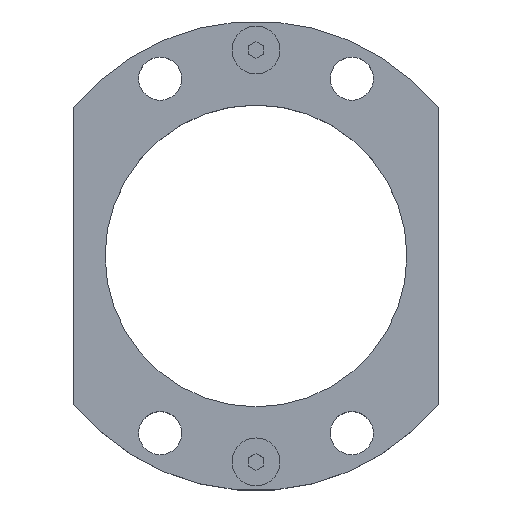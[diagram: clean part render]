
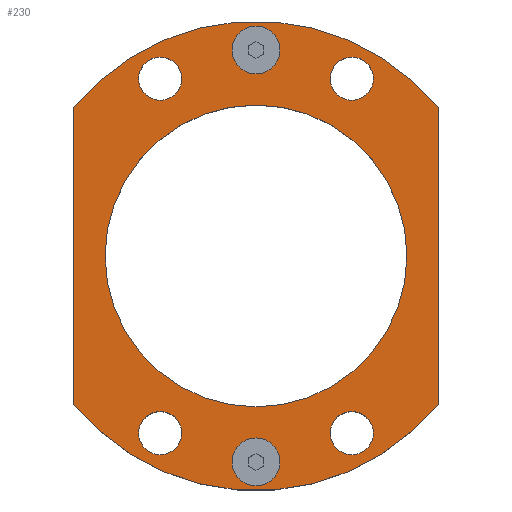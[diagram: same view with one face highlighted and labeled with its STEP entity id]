
A CAD part, top view. The second image highlights one B-rep face of the part: STEP entity #230.
In plain terms, the highlighted planar face has unit normal (0, 0, 1).
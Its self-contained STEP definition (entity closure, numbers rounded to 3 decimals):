
#143=FACE_BOUND('',#445,.T.);
#144=FACE_BOUND('',#446,.T.);
#145=FACE_BOUND('',#447,.T.);
#146=FACE_BOUND('',#448,.T.);
#147=FACE_BOUND('',#449,.T.);
#148=FACE_BOUND('',#450,.T.);
#149=FACE_BOUND('',#451,.T.);
#150=FACE_BOUND('',#452,.T.);
#164=PLANE('',#1603);
#230=ADVANCED_FACE('',(#143,#144,#145,#146,#147,#148,#149,#150),#164,.T.);
#445=EDGE_LOOP('',(#809,#810,#811,#812));
#446=EDGE_LOOP('',(#813,#814));
#447=EDGE_LOOP('',(#815,#816));
#448=EDGE_LOOP('',(#817,#818));
#449=EDGE_LOOP('',(#819,#820));
#450=EDGE_LOOP('',(#821,#822));
#451=EDGE_LOOP('',(#823,#824));
#452=EDGE_LOOP('',(#825,#826));
#524=CIRCLE('',#1540,49.);
#526=CIRCLE('',#1544,49.);
#528=CIRCLE('',#1548,4.5);
#530=CIRCLE('',#1551,4.5);
#532=CIRCLE('',#1554,4.5);
#534=CIRCLE('',#1557,4.5);
#536=CIRCLE('',#1560,4.5);
#538=CIRCLE('',#1563,4.5);
#540=CIRCLE('',#1566,4.5);
#542=CIRCLE('',#1569,4.5);
#547=CIRCLE('',#1577,5.);
#548=CIRCLE('',#1579,5.);
#550=CIRCLE('',#1582,31.5);
#552=CIRCLE('',#1585,31.5);
#561=CIRCLE('',#1601,5.);
#562=CIRCLE('',#1602,5.);
#809=ORIENTED_EDGE('',*,*,#1149,.T.);
#810=ORIENTED_EDGE('',*,*,#1158,.T.);
#811=ORIENTED_EDGE('',*,*,#1155,.T.);
#812=ORIENTED_EDGE('',*,*,#1152,.T.);
#813=ORIENTED_EDGE('',*,*,#1211,.F.);
#814=ORIENTED_EDGE('',*,*,#1212,.F.);
#815=ORIENTED_EDGE('',*,*,#1192,.F.);
#816=ORIENTED_EDGE('',*,*,#1190,.F.);
#817=ORIENTED_EDGE('',*,*,#1161,.T.);
#818=ORIENTED_EDGE('',*,*,#1164,.T.);
#819=ORIENTED_EDGE('',*,*,#1167,.T.);
#820=ORIENTED_EDGE('',*,*,#1170,.T.);
#821=ORIENTED_EDGE('',*,*,#1173,.T.);
#822=ORIENTED_EDGE('',*,*,#1176,.T.);
#823=ORIENTED_EDGE('',*,*,#1179,.T.);
#824=ORIENTED_EDGE('',*,*,#1182,.T.);
#825=ORIENTED_EDGE('',*,*,#1195,.T.);
#826=ORIENTED_EDGE('',*,*,#1198,.T.);
#1005=VERTEX_POINT('',#2226);
#1006=VERTEX_POINT('',#2228);
#1008=VERTEX_POINT('',#2234);
#1010=VERTEX_POINT('',#2240);
#1013=VERTEX_POINT('',#2250);
#1014=VERTEX_POINT('',#2252);
#1017=VERTEX_POINT('',#2262);
#1018=VERTEX_POINT('',#2264);
#1021=VERTEX_POINT('',#2274);
#1022=VERTEX_POINT('',#2276);
#1025=VERTEX_POINT('',#2286);
#1026=VERTEX_POINT('',#2288);
#1031=VERTEX_POINT('',#2307);
#1032=VERTEX_POINT('',#2309);
#1035=VERTEX_POINT('',#2318);
#1036=VERTEX_POINT('',#2320);
#1045=VERTEX_POINT('',#2353);
#1046=VERTEX_POINT('',#2354);
#1149=EDGE_CURVE('',#1006,#1005,#524,.T.);
#1152=EDGE_CURVE('',#1008,#1006,#1306,.T.);
#1155=EDGE_CURVE('',#1010,#1008,#526,.T.);
#1158=EDGE_CURVE('',#1005,#1010,#1310,.T.);
#1161=EDGE_CURVE('',#1014,#1013,#528,.T.);
#1164=EDGE_CURVE('',#1013,#1014,#530,.T.);
#1167=EDGE_CURVE('',#1018,#1017,#532,.T.);
#1170=EDGE_CURVE('',#1017,#1018,#534,.T.);
#1173=EDGE_CURVE('',#1022,#1021,#536,.T.);
#1176=EDGE_CURVE('',#1021,#1022,#538,.T.);
#1179=EDGE_CURVE('',#1026,#1025,#540,.T.);
#1182=EDGE_CURVE('',#1025,#1026,#542,.T.);
#1190=EDGE_CURVE('',#1031,#1032,#547,.T.);
#1192=EDGE_CURVE('',#1032,#1031,#548,.T.);
#1195=EDGE_CURVE('',#1036,#1035,#550,.T.);
#1198=EDGE_CURVE('',#1035,#1036,#552,.T.);
#1211=EDGE_CURVE('',#1045,#1046,#561,.T.);
#1212=EDGE_CURVE('',#1046,#1045,#562,.T.);
#1306=LINE('',#2233,#1406);
#1310=LINE('',#2244,#1410);
#1406=VECTOR('',#1805,1.);
#1410=VECTOR('',#1817,1.);
#1540=AXIS2_PLACEMENT_3D('',#2227,#1799,#1800);
#1544=AXIS2_PLACEMENT_3D('',#2239,#1811,#1812);
#1548=AXIS2_PLACEMENT_3D('',#2251,#1823,#1824);
#1551=AXIS2_PLACEMENT_3D('',#2256,#1830,#1831);
#1554=AXIS2_PLACEMENT_3D('',#2263,#1837,#1838);
#1557=AXIS2_PLACEMENT_3D('',#2268,#1844,#1845);
#1560=AXIS2_PLACEMENT_3D('',#2275,#1851,#1852);
#1563=AXIS2_PLACEMENT_3D('',#2280,#1858,#1859);
#1566=AXIS2_PLACEMENT_3D('',#2287,#1865,#1866);
#1569=AXIS2_PLACEMENT_3D('',#2292,#1872,#1873);
#1577=AXIS2_PLACEMENT_3D('',#2308,#1891,#1892);
#1579=AXIS2_PLACEMENT_3D('',#2312,#1896,#1897);
#1582=AXIS2_PLACEMENT_3D('',#2319,#1903,#1904);
#1585=AXIS2_PLACEMENT_3D('',#2324,#1910,#1911);
#1601=AXIS2_PLACEMENT_3D('',#2352,#1946,#1947);
#1602=AXIS2_PLACEMENT_3D('',#2355,#1948,#1949);
#1603=AXIS2_PLACEMENT_3D('',#2356,#1950,#1951);
#1799=DIRECTION('',(0.,0.,1.));
#1800=DIRECTION('',(0.,-1.,0.));
#1805=DIRECTION('',(0.,1.,0.));
#1811=DIRECTION('',(0.,0.,1.));
#1812=DIRECTION('',(0.,1.,0.));
#1817=DIRECTION('',(0.,-1.,0.));
#1823=DIRECTION('',(0.,0.,-1.));
#1824=DIRECTION('',(-1.,0.,0.));
#1830=DIRECTION('',(0.,0.,-1.));
#1831=DIRECTION('',(1.,0.,0.));
#1837=DIRECTION('',(0.,0.,-1.));
#1838=DIRECTION('',(-1.,0.,0.));
#1844=DIRECTION('',(0.,0.,-1.));
#1845=DIRECTION('',(1.,0.,0.));
#1851=DIRECTION('',(0.,0.,-1.));
#1852=DIRECTION('',(-1.,0.,0.));
#1858=DIRECTION('',(0.,0.,-1.));
#1859=DIRECTION('',(1.,0.,0.));
#1865=DIRECTION('',(0.,0.,-1.));
#1866=DIRECTION('',(-1.,0.,0.));
#1872=DIRECTION('',(0.,0.,-1.));
#1873=DIRECTION('',(1.,0.,0.));
#1891=DIRECTION('',(0.,0.,1.));
#1892=DIRECTION('',(1.,0.,0.));
#1896=DIRECTION('',(0.,0.,1.));
#1897=DIRECTION('',(-1.,0.,0.));
#1903=DIRECTION('',(0.,0.,-1.));
#1904=DIRECTION('',(-1.,0.,0.));
#1910=DIRECTION('',(0.,0.,-1.));
#1911=DIRECTION('',(1.,0.,0.));
#1946=DIRECTION('',(0.,0.,1.));
#1947=DIRECTION('',(-1.,0.,0.));
#1948=DIRECTION('',(0.,0.,1.));
#1949=DIRECTION('',(1.,0.,0.));
#1950=DIRECTION('',(0.,0.,1.));
#1951=DIRECTION('',(0.631,-0.776,0.));
#2226=CARTESIAN_POINT('',(-38.,30.935,13.));
#2227=CARTESIAN_POINT('',(0.,0.,13.));
#2228=CARTESIAN_POINT('',(38.,30.935,13.));
#2233=CARTESIAN_POINT('',(38.,30.935,13.));
#2234=CARTESIAN_POINT('',(38.,-30.935,13.));
#2239=CARTESIAN_POINT('',(0.,0.,13.));
#2240=CARTESIAN_POINT('',(-38.,-30.935,13.));
#2244=CARTESIAN_POINT('',(-38.,30.935,13.));
#2250=CARTESIAN_POINT('',(20.,32.5,13.));
#2251=CARTESIAN_POINT('',(20.,37.,13.));
#2252=CARTESIAN_POINT('',(20.,41.5,13.));
#2256=CARTESIAN_POINT('',(20.,37.,13.));
#2262=CARTESIAN_POINT('',(-20.,32.5,13.));
#2263=CARTESIAN_POINT('',(-20.,37.,13.));
#2264=CARTESIAN_POINT('',(-20.,41.5,13.));
#2268=CARTESIAN_POINT('',(-20.,37.,13.));
#2274=CARTESIAN_POINT('',(20.,-41.5,13.));
#2275=CARTESIAN_POINT('',(20.,-37.,13.));
#2276=CARTESIAN_POINT('',(20.,-32.5,13.));
#2280=CARTESIAN_POINT('',(20.,-37.,13.));
#2286=CARTESIAN_POINT('',(-20.,-41.5,13.));
#2287=CARTESIAN_POINT('',(-20.,-37.,13.));
#2288=CARTESIAN_POINT('',(-20.,-32.5,13.));
#2292=CARTESIAN_POINT('',(-20.,-37.,13.));
#2307=CARTESIAN_POINT('',(0.,-38.,13.));
#2308=CARTESIAN_POINT('',(0.,-43.,13.));
#2309=CARTESIAN_POINT('',(0.,-48.,13.));
#2312=CARTESIAN_POINT('',(0.,-43.,13.));
#2318=CARTESIAN_POINT('',(0.,-31.5,13.));
#2319=CARTESIAN_POINT('',(0.,0.,13.));
#2320=CARTESIAN_POINT('',(0.,31.5,13.));
#2324=CARTESIAN_POINT('',(0.,0.,13.));
#2352=CARTESIAN_POINT('',(0.,43.,13.));
#2353=CARTESIAN_POINT('',(0.,38.,13.));
#2354=CARTESIAN_POINT('',(0.,48.,13.));
#2355=CARTESIAN_POINT('',(0.,43.,13.));
#2356=CARTESIAN_POINT('',(38.,30.935,13.));
